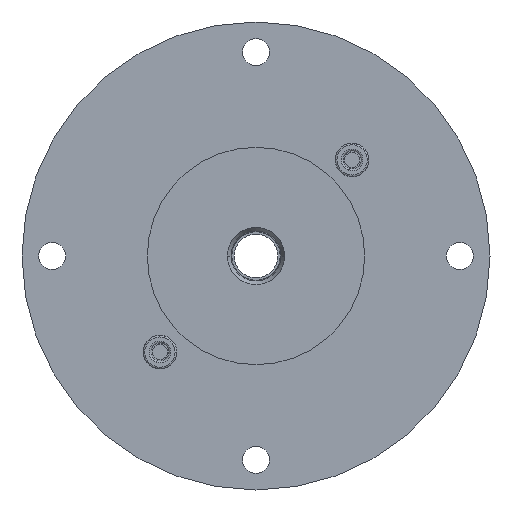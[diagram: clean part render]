
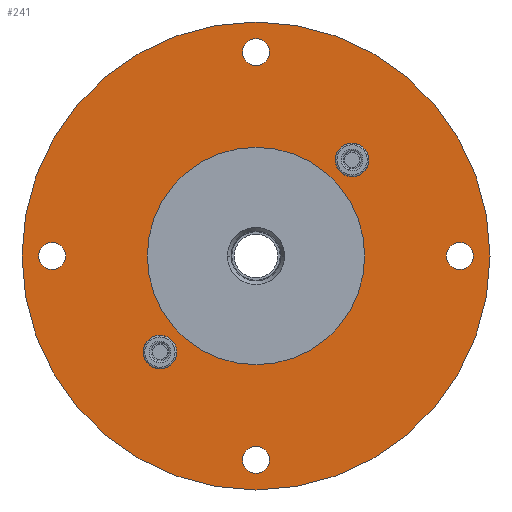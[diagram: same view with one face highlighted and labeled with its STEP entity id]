
A CAD part, front view. The second image highlights one B-rep face of the part: STEP entity #241.
In plain terms, the highlighted planar face has unit normal (0, -1, 0).
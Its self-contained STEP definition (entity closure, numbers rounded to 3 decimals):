
#58=CARTESIAN_POINT('',(-26.22,2.5,-31.82));
#59=VERTEX_POINT('',#58);
#60=CARTESIAN_POINT('',(-37.42,2.5,-31.82));
#61=VERTEX_POINT('',#60);
#62=CARTESIAN_POINT('',(-31.82,2.5,-31.82));
#63=DIRECTION('',(-0.0,-1.0,0.0));
#64=DIRECTION('',(-1.0,0.0,0.0));
#65=AXIS2_PLACEMENT_3D('',#62,#63,#64);
#66=CIRCLE('',#65,5.6);
#67=EDGE_CURVE('no 670',#59,#61,#66,.T.);
#68=ORIENTED_EDGE('',*,*,#67,.F.);
#69=CARTESIAN_POINT('',(-31.82,2.5,-31.82));
#70=DIRECTION('',(-0.0,-1.0,0.0));
#71=DIRECTION('',(-1.0,0.0,0.0));
#72=AXIS2_PLACEMENT_3D('',#69,#70,#71);
#73=CIRCLE('',#72,5.6);
#74=EDGE_CURVE('no 674',#61,#59,#73,.T.);
#75=ORIENTED_EDGE('',*,*,#74,.F.);
#76=EDGE_LOOP('',(#68,#75));
#77=FACE_BOUND('',#76,.T.);
#78=CARTESIAN_POINT('',(26.22,2.5,31.82));
#79=VERTEX_POINT('',#78);
#80=CARTESIAN_POINT('',(37.42,2.5,31.82));
#81=VERTEX_POINT('',#80);
#82=CARTESIAN_POINT('',(31.82,2.5,31.82));
#83=DIRECTION('',(-0.0,-1.0,-0.0));
#84=DIRECTION('',(1.0,-0.0,0.0));
#85=AXIS2_PLACEMENT_3D('',#82,#83,#84);
#86=CIRCLE('',#85,5.6);
#87=EDGE_CURVE('no 683',#79,#81,#86,.T.);
#88=ORIENTED_EDGE('',*,*,#87,.F.);
#89=CARTESIAN_POINT('',(31.82,2.5,31.82));
#90=DIRECTION('',(-0.0,-1.0,-0.0));
#91=DIRECTION('',(1.0,-0.0,0.0));
#92=AXIS2_PLACEMENT_3D('',#89,#90,#91);
#93=CIRCLE('',#92,5.6);
#94=EDGE_CURVE('no 687',#81,#79,#93,.T.);
#95=ORIENTED_EDGE('',*,*,#94,.F.);
#96=EDGE_LOOP('',(#88,#95));
#97=FACE_BOUND('',#96,.T.);
#98=CARTESIAN_POINT('',(4.5,2.5,-67.5));
#99=VERTEX_POINT('',#98);
#100=CARTESIAN_POINT('',(-4.5,2.5,-67.5));
#101=VERTEX_POINT('',#100);
#102=CARTESIAN_POINT('',(-0.0,2.5,-67.5));
#103=DIRECTION('',(0.0,1.0,-0.0));
#104=DIRECTION('',(1.0,-0.0,-0.0));
#105=AXIS2_PLACEMENT_3D('',#102,#103,#104);
#106=CIRCLE('',#105,4.5);
#107=EDGE_CURVE('no 696',#99,#101,#106,.T.);
#108=ORIENTED_EDGE('',*,*,#107,.T.);
#109=CARTESIAN_POINT('',(-0.0,2.5,-67.5));
#110=DIRECTION('',(0.0,1.0,-0.0));
#111=DIRECTION('',(1.0,-0.0,-0.0));
#112=AXIS2_PLACEMENT_3D('',#109,#110,#111);
#113=CIRCLE('',#112,4.5);
#114=EDGE_CURVE('no 700',#101,#99,#113,.T.);
#115=ORIENTED_EDGE('',*,*,#114,.T.);
#116=EDGE_LOOP('',(#108,#115));
#117=FACE_BOUND('',#116,.T.);
#118=CARTESIAN_POINT('',(-4.5,2.5,67.5));
#119=VERTEX_POINT('',#118);
#120=CARTESIAN_POINT('',(4.5,2.5,67.5));
#121=VERTEX_POINT('',#120);
#122=CARTESIAN_POINT('',(-0.0,2.5,67.5));
#123=DIRECTION('',(0.0,1.0,0.0));
#124=DIRECTION('',(-1.0,0.0,-0.0));
#125=AXIS2_PLACEMENT_3D('',#122,#123,#124);
#126=CIRCLE('',#125,4.5);
#127=EDGE_CURVE('no 709',#119,#121,#126,.T.);
#128=ORIENTED_EDGE('',*,*,#127,.T.);
#129=CARTESIAN_POINT('',(-0.0,2.5,67.5));
#130=DIRECTION('',(0.0,1.0,0.0));
#131=DIRECTION('',(-1.0,0.0,-0.0));
#132=AXIS2_PLACEMENT_3D('',#129,#130,#131);
#133=CIRCLE('',#132,4.5);
#134=EDGE_CURVE('no 713',#121,#119,#133,.T.);
#135=ORIENTED_EDGE('',*,*,#134,.T.);
#136=EDGE_LOOP('',(#128,#135));
#137=FACE_BOUND('',#136,.T.);
#138=CARTESIAN_POINT('',(-36.0,2.5,0.0));
#139=VERTEX_POINT('',#138);
#140=CARTESIAN_POINT('',(36.0,2.5,0.0));
#141=VERTEX_POINT('',#140);
#142=CARTESIAN_POINT('',(0.0,2.5,0.0));
#143=DIRECTION('',(-0.0,-1.0,-0.0));
#144=DIRECTION('',(1.0,-0.0,0.0));
#145=AXIS2_PLACEMENT_3D('',#142,#143,#144);
#146=CIRCLE('',#145,36.0);
#147=EDGE_CURVE('no 722',#139,#141,#146,.T.);
#148=ORIENTED_EDGE('',*,*,#147,.F.);
#149=CARTESIAN_POINT('',(0.0,2.5,0.0));
#150=DIRECTION('',(-0.0,-1.0,-0.0));
#151=DIRECTION('',(1.0,-0.0,0.0));
#152=AXIS2_PLACEMENT_3D('',#149,#150,#151);
#153=CIRCLE('',#152,36.0);
#154=EDGE_CURVE('no 726',#141,#139,#153,.T.);
#155=ORIENTED_EDGE('',*,*,#154,.F.);
#156=EDGE_LOOP('',(#148,#155));
#157=FACE_BOUND('',#156,.T.);
#158=CARTESIAN_POINT('',(77.5,2.5,0.0));
#159=VERTEX_POINT('',#158);
#160=CARTESIAN_POINT('',(-77.5,2.5,0.0));
#161=VERTEX_POINT('',#160);
#162=CARTESIAN_POINT('',(0.0,2.5,0.0));
#163=DIRECTION('',(-0.0,-1.0,-0.0));
#164=DIRECTION('',(1.0,-0.0,0.0));
#165=AXIS2_PLACEMENT_3D('',#162,#163,#164);
#166=CIRCLE('',#165,77.5);
#167=EDGE_CURVE('no 735',#159,#161,#166,.T.);
#168=ORIENTED_EDGE('',*,*,#167,.T.);
#169=CARTESIAN_POINT('',(0.0,2.5,0.0));
#170=DIRECTION('',(-0.0,-1.0,-0.0));
#171=DIRECTION('',(1.0,-0.0,0.0));
#172=AXIS2_PLACEMENT_3D('',#169,#170,#171);
#173=CIRCLE('',#172,77.5);
#174=EDGE_CURVE('no 739',#161,#159,#173,.T.);
#175=ORIENTED_EDGE('',*,*,#174,.T.);
#176=EDGE_LOOP('',(#168,#175));
#177=FACE_OUTER_BOUND('',#176,.T.);
#178=CARTESIAN_POINT('',(67.5,2.5,4.5));
#179=VERTEX_POINT('',#178);
#180=CARTESIAN_POINT('',(72.0,2.5,-0.0));
#181=VERTEX_POINT('',#180);
#182=CARTESIAN_POINT('',(67.5,2.5,-0.0));
#183=DIRECTION('',(0.0,1.0,0.0));
#184=DIRECTION('',(0.0,-0.0,1.0));
#185=AXIS2_PLACEMENT_3D('',#182,#183,#184);
#186=CIRCLE('',#185,4.5);
#187=EDGE_CURVE('no 748',#179,#181,#186,.T.);
#188=ORIENTED_EDGE('',*,*,#187,.T.);
#189=CARTESIAN_POINT('',(63.0,2.5,-0.0));
#190=VERTEX_POINT('',#189);
#191=CARTESIAN_POINT('',(67.5,2.5,-0.0));
#192=DIRECTION('',(0.0,1.0,0.0));
#193=DIRECTION('',(0.0,-0.0,1.0));
#194=AXIS2_PLACEMENT_3D('',#191,#192,#193);
#195=CIRCLE('',#194,4.5);
#196=EDGE_CURVE('no 754',#181,#190,#195,.T.);
#197=ORIENTED_EDGE('',*,*,#196,.T.);
#198=CARTESIAN_POINT('',(67.5,2.5,-0.0));
#199=DIRECTION('',(0.0,1.0,0.0));
#200=DIRECTION('',(0.0,-0.0,1.0));
#201=AXIS2_PLACEMENT_3D('',#198,#199,#200);
#202=CIRCLE('',#201,4.5);
#203=EDGE_CURVE('no 758',#190,#179,#202,.T.);
#204=ORIENTED_EDGE('',*,*,#203,.T.);
#205=EDGE_LOOP('',(#188,#197,#204));
#206=FACE_BOUND('',#205,.T.);
#207=CARTESIAN_POINT('',(-67.5,2.5,-4.5));
#208=VERTEX_POINT('',#207);
#209=CARTESIAN_POINT('',(-72.0,2.5,0.0));
#210=VERTEX_POINT('',#209);
#211=CARTESIAN_POINT('',(-67.5,2.5,0.0));
#212=DIRECTION('',(0.0,1.0,0.0));
#213=DIRECTION('',(-0.0,0.0,-1.0));
#214=AXIS2_PLACEMENT_3D('',#211,#212,#213);
#215=CIRCLE('',#214,4.5);
#216=EDGE_CURVE('no 767',#208,#210,#215,.T.);
#217=ORIENTED_EDGE('',*,*,#216,.T.);
#218=CARTESIAN_POINT('',(-63.0,2.5,0.0));
#219=VERTEX_POINT('',#218);
#220=CARTESIAN_POINT('',(-67.5,2.5,0.0));
#221=DIRECTION('',(0.0,1.0,0.0));
#222=DIRECTION('',(-0.0,0.0,-1.0));
#223=AXIS2_PLACEMENT_3D('',#220,#221,#222);
#224=CIRCLE('',#223,4.5);
#225=EDGE_CURVE('no 773',#210,#219,#224,.T.);
#226=ORIENTED_EDGE('',*,*,#225,.T.);
#227=CARTESIAN_POINT('',(-67.5,2.5,0.0));
#228=DIRECTION('',(0.0,1.0,0.0));
#229=DIRECTION('',(-0.0,0.0,-1.0));
#230=AXIS2_PLACEMENT_3D('',#227,#228,#229);
#231=CIRCLE('',#230,4.5);
#232=EDGE_CURVE('no 777',#219,#208,#231,.T.);
#233=ORIENTED_EDGE('',*,*,#232,.T.);
#234=EDGE_LOOP('',(#217,#226,#233));
#235=FACE_BOUND('',#234,.T.);
#236=CARTESIAN_POINT('',(0.0,2.5,0.0));
#237=DIRECTION('',(-0.0,-1.0,-0.0));
#238=DIRECTION('',(1.0,-0.0,0.0));
#239=AXIS2_PLACEMENT_3D('',#236,#237,#238);
#240=PLANE('',#239);
#241=ADVANCED_FACE('no 661',(#77,#97,#117,#137,#157,#177,#206,#235),#240,.T.);
